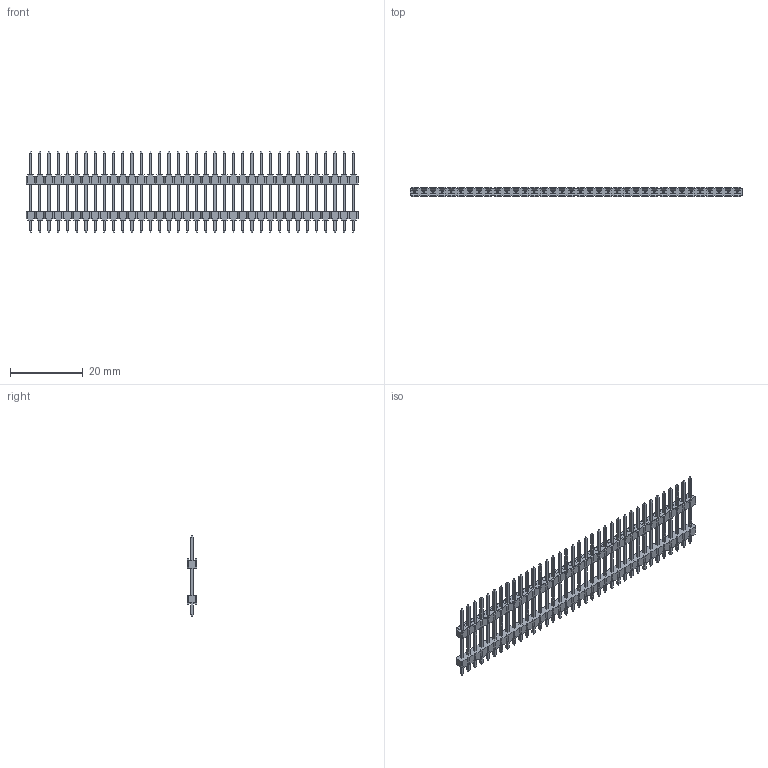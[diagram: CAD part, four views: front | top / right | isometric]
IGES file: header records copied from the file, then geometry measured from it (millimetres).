
Global section: file name: N:\GOLF_VI_2_54mm_UGII\9614XX-X04XX04-XX (TS-2185)\961436-9041204-XX.igs; native system: NX V3.0; preprocessor: UGS NX IGES V4.0; date: 20070618.112800; units: millimetre
Bounding box: 91.44 x 2.5 x 22.4 mm (x, y, z)
Surface area: 3533.8 mm2 (no closed solid volume)
Topology: 0 solids, 0 shells, 1956 faces, 10705 edges, 10705 vertices
Faces by surface type: bspline 1956
